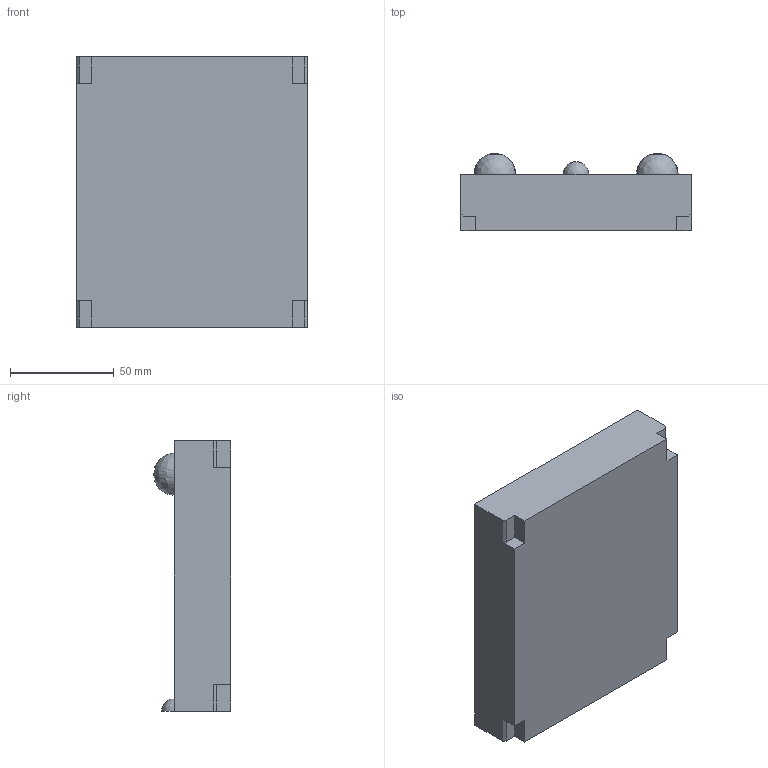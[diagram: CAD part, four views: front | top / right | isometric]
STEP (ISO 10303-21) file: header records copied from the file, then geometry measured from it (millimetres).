
FILE_DESCRIPTION(/* description */ (''),/* implementation_level */ '2;1');
FILE_NAME(/* name */ 'Makey Mold front',/* time_stamp */ '2025-11-30T21:08:40-05:00',/* author */ (''),/* organization */ (''),/* preprocessor_version */ 'ST-DEVELOPER v19.2',/* originating_system */ 'Rhino 8.14',/* authorisation */ '');
FILE_SCHEMA (('CONFIG_CONTROL_DESIGN'));
Length unit declared in the file: inch
Products named in the file (1): Document
Bounding box: 111.35 x 37.33 x 130.73 mm (x, y, z)
Volume: 324020.2 mm3; surface area: 50839.2 mm2
Topology: 1 solids, 1 shells, 183 faces, 508 edges, 326 vertices
Faces by surface type: plane 121, cylinder 34, bspline 28
Entity records: 6059 total; most frequent: CARTESIAN_POINT 2499, ORIENTED_EDGE 1004, EDGE_CURVE 502, B_SPLINE_CURVE_WITH_KNOTS 430, VERTEX_POINT 326, DIRECTION 227, AXIS2_PLACEMENT_3D 191, EDGE_LOOP 188
